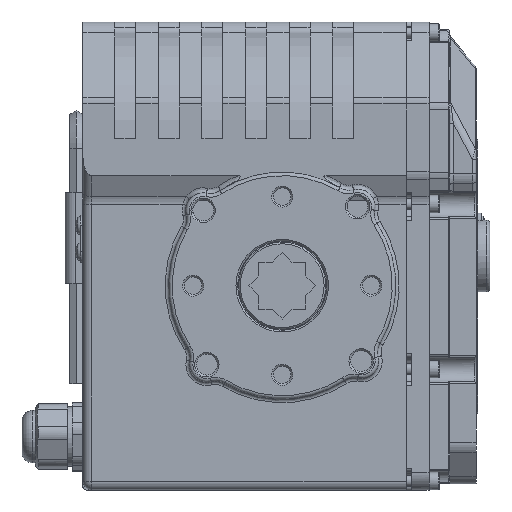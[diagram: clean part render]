
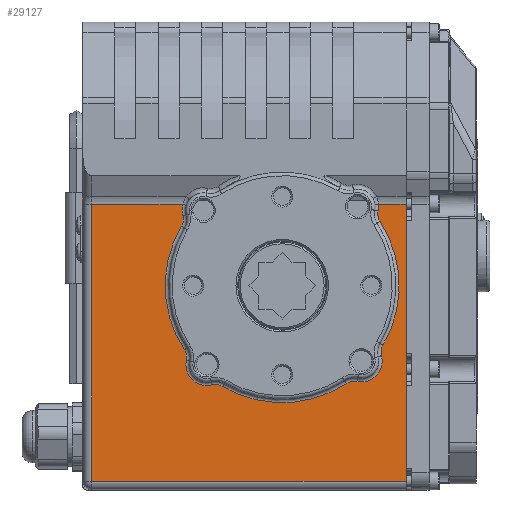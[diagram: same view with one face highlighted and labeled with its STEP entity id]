
A CAD part, front view. The second image highlights one B-rep face of the part: STEP entity #29127.
In plain terms, the highlighted planar face has unit normal (0, -1, 0).
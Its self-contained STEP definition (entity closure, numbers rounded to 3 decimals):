
#2148=PLANE('',#31241);
#3575=FACE_OUTER_BOUND('',#5244,.T.);
#5244=EDGE_LOOP('',(#24338,#24339,#24340,#24341,#24342,#24343,#24344,#24345,
#24346,#24347,#24348,#24349,#24350,#24351,#24352,#24353,#24354,#24355));
#7422=LINE('',#51157,#9588);
#7462=LINE('',#51292,#9628);
#7463=LINE('',#51295,#9629);
#7464=LINE('',#51297,#9630);
#7465=LINE('',#51298,#9631);
#9588=VECTOR('',#37135,10.);
#9628=VECTOR('',#37305,10.);
#9629=VECTOR('',#37308,10.);
#9630=VECTOR('',#37309,10.);
#9631=VECTOR('',#37310,10.);
#10371=CIRCLE('',#30389,12.);
#10374=CIRCLE('',#30393,8.);
#10377=CIRCLE('',#30397,67.);
#10380=CIRCLE('',#30401,8.);
#10383=CIRCLE('',#30405,12.);
#10386=CIRCLE('',#30409,8.);
#10389=CIRCLE('',#30413,67.);
#10392=CIRCLE('',#30417,8.);
#10395=CIRCLE('',#30421,12.);
#10398=CIRCLE('',#30425,8.);
#10401=CIRCLE('',#30429,67.);
#10404=CIRCLE('',#30433,8.);
#10407=CIRCLE('',#30437,12.);
#11882=VERTEX_POINT('',#43358);
#11884=VERTEX_POINT('',#43366);
#11886=VERTEX_POINT('',#43372);
#11888=VERTEX_POINT('',#43378);
#11890=VERTEX_POINT('',#43384);
#11892=VERTEX_POINT('',#43390);
#11894=VERTEX_POINT('',#43396);
#11896=VERTEX_POINT('',#43402);
#11898=VERTEX_POINT('',#43408);
#11900=VERTEX_POINT('',#43414);
#11902=VERTEX_POINT('',#43420);
#11904=VERTEX_POINT('',#43426);
#11906=VERTEX_POINT('',#43432);
#11908=VERTEX_POINT('',#43438);
#13278=VERTEX_POINT('',#51156);
#13308=VERTEX_POINT('',#51289);
#13309=VERTEX_POINT('',#51294);
#13310=VERTEX_POINT('',#51296);
#14990=EDGE_CURVE('',#11884,#11882,#10371,.T.);
#14993=EDGE_CURVE('',#11886,#11884,#10374,.T.);
#14996=EDGE_CURVE('',#11888,#11886,#10377,.T.);
#14999=EDGE_CURVE('',#11890,#11888,#10380,.T.);
#15002=EDGE_CURVE('',#11892,#11890,#10383,.T.);
#15005=EDGE_CURVE('',#11894,#11892,#10386,.T.);
#15008=EDGE_CURVE('',#11896,#11894,#10389,.T.);
#15011=EDGE_CURVE('',#11898,#11896,#10392,.T.);
#15014=EDGE_CURVE('',#11900,#11898,#10395,.T.);
#15017=EDGE_CURVE('',#11902,#11900,#10398,.T.);
#15020=EDGE_CURVE('',#11904,#11902,#10401,.T.);
#15023=EDGE_CURVE('',#11906,#11904,#10404,.T.);
#15026=EDGE_CURVE('',#11908,#11906,#10407,.T.);
#17067=EDGE_CURVE('',#11882,#13278,#7422,.T.);
#17136=EDGE_CURVE('',#13278,#13308,#7462,.T.);
#17137=EDGE_CURVE('',#13309,#11908,#7463,.T.);
#17138=EDGE_CURVE('',#13310,#13309,#7464,.T.);
#17139=EDGE_CURVE('',#13308,#13310,#7465,.T.);
#24338=ORIENTED_EDGE('',*,*,#15026,.F.);
#24339=ORIENTED_EDGE('',*,*,#17137,.F.);
#24340=ORIENTED_EDGE('',*,*,#17138,.F.);
#24341=ORIENTED_EDGE('',*,*,#17139,.F.);
#24342=ORIENTED_EDGE('',*,*,#17136,.F.);
#24343=ORIENTED_EDGE('',*,*,#17067,.F.);
#24344=ORIENTED_EDGE('',*,*,#14990,.F.);
#24345=ORIENTED_EDGE('',*,*,#14993,.F.);
#24346=ORIENTED_EDGE('',*,*,#14996,.F.);
#24347=ORIENTED_EDGE('',*,*,#14999,.F.);
#24348=ORIENTED_EDGE('',*,*,#15002,.F.);
#24349=ORIENTED_EDGE('',*,*,#15005,.F.);
#24350=ORIENTED_EDGE('',*,*,#15008,.F.);
#24351=ORIENTED_EDGE('',*,*,#15011,.F.);
#24352=ORIENTED_EDGE('',*,*,#15014,.F.);
#24353=ORIENTED_EDGE('',*,*,#15017,.F.);
#24354=ORIENTED_EDGE('',*,*,#15020,.F.);
#24355=ORIENTED_EDGE('',*,*,#15023,.F.);
#29127=ADVANCED_FACE('',(#3575),#2148,.T.);
#30389=AXIS2_PLACEMENT_3D('',#43368,#34231,#34232);
#30393=AXIS2_PLACEMENT_3D('',#43374,#34239,#34240);
#30397=AXIS2_PLACEMENT_3D('',#43380,#34247,#34248);
#30401=AXIS2_PLACEMENT_3D('',#43386,#34255,#34256);
#30405=AXIS2_PLACEMENT_3D('',#43392,#34263,#34264);
#30409=AXIS2_PLACEMENT_3D('',#43398,#34271,#34272);
#30413=AXIS2_PLACEMENT_3D('',#43404,#34279,#34280);
#30417=AXIS2_PLACEMENT_3D('',#43410,#34287,#34288);
#30421=AXIS2_PLACEMENT_3D('',#43416,#34295,#34296);
#30425=AXIS2_PLACEMENT_3D('',#43422,#34303,#34304);
#30429=AXIS2_PLACEMENT_3D('',#43428,#34311,#34312);
#30433=AXIS2_PLACEMENT_3D('',#43434,#34319,#34320);
#30437=AXIS2_PLACEMENT_3D('',#43440,#34327,#34328);
#31241=AXIS2_PLACEMENT_3D('',#51293,#37306,#37307);
#34231=DIRECTION('center_axis',(0.,-1.,0.));
#34232=DIRECTION('ref_axis',(0.999,0.,-0.036));
#34239=DIRECTION('center_axis',(0.,1.,0.));
#34240=DIRECTION('ref_axis',(-0.983,0.,-0.186));
#34247=DIRECTION('center_axis',(0.,-1.,0.));
#34248=DIRECTION('ref_axis',(1.,0.,0.024));
#34255=DIRECTION('center_axis',(0.,1.,0.));
#34256=DIRECTION('ref_axis',(-0.99,0.,0.139));
#34263=DIRECTION('center_axis',(0.,-1.,0.));
#34264=DIRECTION('ref_axis',(0.724,0.,-0.69));
#34271=DIRECTION('center_axis',(0.,1.,0.));
#34272=DIRECTION('ref_axis',(-0.186,0.,0.983));
#34279=DIRECTION('center_axis',(0.,-1.,0.));
#34280=DIRECTION('ref_axis',(0.024,0.,-1.));
#34287=DIRECTION('center_axis',(0.,1.,0.));
#34288=DIRECTION('ref_axis',(0.139,0.,0.99));
#34295=DIRECTION('center_axis',(0.,-1.,0.));
#34296=DIRECTION('ref_axis',(-0.69,0.,-0.724));
#34303=DIRECTION('center_axis',(0.,1.,0.));
#34304=DIRECTION('ref_axis',(0.983,0.,0.186));
#34311=DIRECTION('center_axis',(0.,-1.,0.));
#34312=DIRECTION('ref_axis',(-1.,0.,-0.024));
#34319=DIRECTION('center_axis',(0.,1.,0.));
#34320=DIRECTION('ref_axis',(0.99,0.,-0.139));
#34327=DIRECTION('center_axis',(0.,-1.,0.));
#34328=DIRECTION('ref_axis',(-0.999,0.,0.048));
#37135=DIRECTION('',(1.,0.,0.));
#37305=DIRECTION('',(0.,0.,-1.));
#37306=DIRECTION('center_axis',(0.,-1.,0.));
#37307=DIRECTION('ref_axis',(0.,0.,
-1.));
#37308=DIRECTION('',(1.,0.,0.));
#37309=DIRECTION('',(0.,0.,1.));
#37310=DIRECTION('',(-1.,0.,0.));
#43358=CARTESIAN_POINT('',(55.065,-55.5,46.554));
#43366=CARTESIAN_POINT('',(54.884,-55.5,42.769));
#43368=CARTESIAN_POINT('Origin',(43.138,-55.5,45.225));
#43372=CARTESIAN_POINT('',(56.025,-55.5,36.744));
#43374=CARTESIAN_POINT('Origin',(62.715,-55.5,41.132));
#43378=CARTESIAN_POINT('',(57.698,-55.5,-34.059));
#43380=CARTESIAN_POINT('Origin',(0.,-55.5,0.));
#43384=CARTESIAN_POINT('',(56.842,-55.5,-40.131));
#43386=CARTESIAN_POINT('Origin',(64.587,-55.5,-38.125));
#43390=CARTESIAN_POINT('',(42.769,-55.5,-54.884));
#43392=CARTESIAN_POINT('Origin',(45.225,-55.5,-43.138));
#43396=CARTESIAN_POINT('',(36.744,-55.5,-56.025));
#43398=CARTESIAN_POINT('Origin',(41.132,-55.5,-62.715));
#43402=CARTESIAN_POINT('',(-34.059,-55.5,-57.698));
#43404=CARTESIAN_POINT('Origin',(0.,-55.5,0.));
#43408=CARTESIAN_POINT('',(-40.131,-55.5,-56.842));
#43410=CARTESIAN_POINT('Origin',(-38.125,-55.5,-64.587));
#43414=CARTESIAN_POINT('',(-54.884,-55.5,-42.769));
#43416=CARTESIAN_POINT('Origin',(-43.138,-55.5,-45.225));
#43420=CARTESIAN_POINT('',(-56.025,-55.5,-36.744));
#43422=CARTESIAN_POINT('Origin',(-62.715,-55.5,-41.132));
#43426=CARTESIAN_POINT('',(-57.698,-55.5,34.059));
#43428=CARTESIAN_POINT('Origin',(0.,-55.5,0.));
#43432=CARTESIAN_POINT('',(-56.842,-55.5,40.131));
#43434=CARTESIAN_POINT('Origin',(-64.587,-55.5,38.125));
#43438=CARTESIAN_POINT('',(-56.729,-55.5,46.554));
#43440=CARTESIAN_POINT('Origin',(-45.225,-55.5,43.138));
#51156=CARTESIAN_POINT('',(71.,-55.5,46.554));
#51157=CARTESIAN_POINT('',(-114.12,-55.5,46.554));
#51289=CARTESIAN_POINT('',(71.,-55.5,-112.));
#51292=CARTESIAN_POINT('',(71.,-55.5,48.9));
#51293=CARTESIAN_POINT('Origin',(-114.12,-55.5,48.9));
#51294=CARTESIAN_POINT('',(-109.12,-55.5,46.554));
#51295=CARTESIAN_POINT('',(-114.12,-55.5,46.554));
#51296=CARTESIAN_POINT('',(-109.12,-55.5,-112.));
#51297=CARTESIAN_POINT('',(-109.12,-55.5,32.95));
#51298=CARTESIAN_POINT('',(-114.12,-55.5,-112.));
